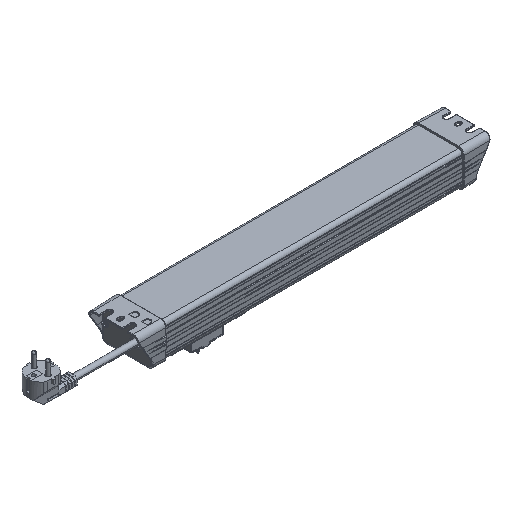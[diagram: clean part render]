
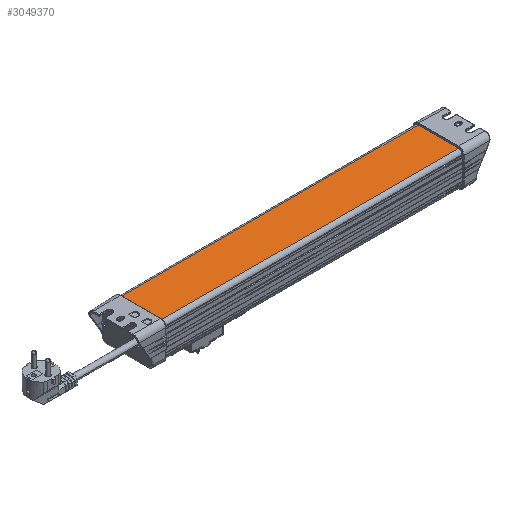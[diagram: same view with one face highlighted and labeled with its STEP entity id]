
A CAD part, isometric view. The second image highlights one B-rep face of the part: STEP entity #3049370.
In plain terms, the highlighted planar face has unit normal (0, 0, 1).
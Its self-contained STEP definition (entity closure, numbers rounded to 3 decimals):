
#178450=CARTESIAN_POINT('',(-200.21,34.786,
25.5));
#178460=VERTEX_POINT('',#178450);
#178490=CARTESIAN_POINT('',(-200.21,-24.069,
25.5));
#178500=DIRECTION('',(0.,-1.,0.));
#178510=VECTOR('',#178500,1.);
#178520=LINE('',#178490,#178510);
#178530=CARTESIAN_POINT('',(-200.21,-20.414,
25.5));
#178540=VERTEX_POINT('',#178530);
#178550=EDGE_CURVE('',#178460,#178540,#178520,.T.);
#3046900=CARTESIAN_POINT('',(207.39,34.786,
25.5));
#3046910=VERTEX_POINT('',#3046900);
#3046940=CARTESIAN_POINT('',(-216.71,34.786,
25.5));
#3046950=DIRECTION('',(1.,0.,0.));
#3046960=VECTOR('',#3046950,1.);
#3046970=LINE('',#3046940,#3046960);
#3046980=EDGE_CURVE('',#178460,#3046910,#3046970,.T.);
#3049140=CARTESIAN_POINT('',(-216.71,7.186,
25.5));
#3049150=DIRECTION('',(-0.,0.,1.));
#3049160=DIRECTION('',(0.,-1.,0.));
#3049170=AXIS2_PLACEMENT_3D('',#3049140,#3049150,#3049160);
#3049180=PLANE('',#3049170);
#3049190=ORIENTED_EDGE('',*,*,#3046980,.F.);
#3049200=CARTESIAN_POINT('',(207.39,-24.069,
25.5));
#3049210=DIRECTION('',(0.,-1.,0.));
#3049220=VECTOR('',#3049210,1.);
#3049230=LINE('',#3049200,#3049220);
#3049240=CARTESIAN_POINT('',(207.39,-20.414,
25.5));
#3049250=VERTEX_POINT('',#3049240);
#3049260=EDGE_CURVE('',#3046910,#3049250,#3049230,.T.);
#3049270=ORIENTED_EDGE('',*,*,#3049260,.F.);
#3049280=CARTESIAN_POINT('',(-216.71,-20.414,
25.5));
#3049290=DIRECTION('',(1.,0.,0.));
#3049300=VECTOR('',#3049290,1.);
#3049310=LINE('',#3049280,#3049300);
#3049320=EDGE_CURVE('',#178540,#3049250,#3049310,.T.);
#3049330=ORIENTED_EDGE('',*,*,#3049320,.T.);
#3049340=ORIENTED_EDGE('',*,*,#178550,.T.);
#3049350=EDGE_LOOP('',(#3049340,#3049330,#3049270,#3049190));
#3049360=FACE_OUTER_BOUND('',#3049350,.T.);
#3049370=ADVANCED_FACE('',(#3049360),#3049180,.T.);
